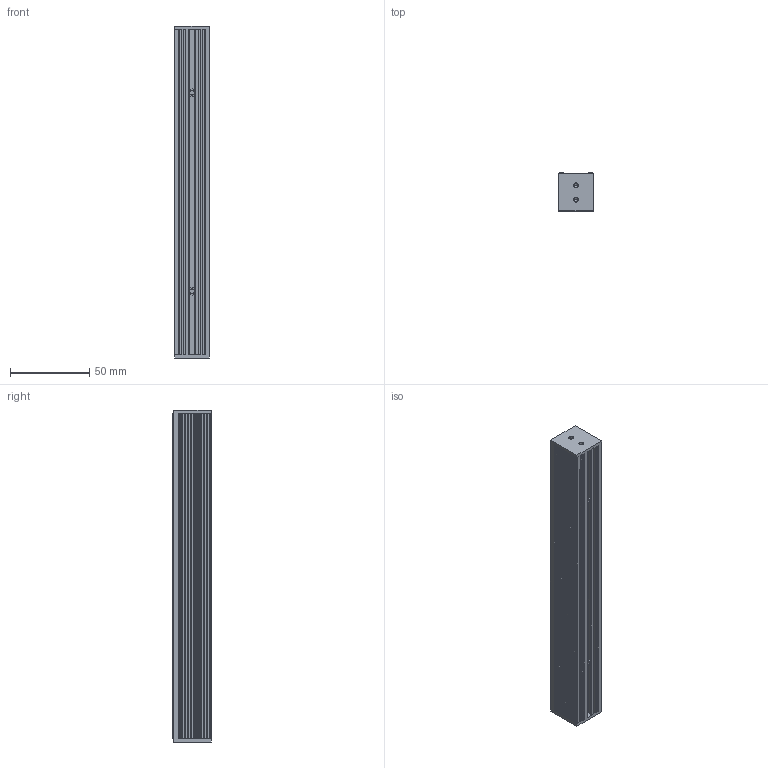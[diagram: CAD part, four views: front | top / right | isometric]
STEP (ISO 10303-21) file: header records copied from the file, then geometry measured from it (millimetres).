
FILE_DESCRIPTION((''),'2;1');
FILE_NAME('DSL','2020-03-23T',('ASUS'),(''),'PRO/ENGINEER BY PARAMETRIC TECHNOLOGY CORPORATION, 2008380','PRO/ENGINEER BY PARAMETRIC TECHNOLOGY CORPORATION, 2008380','');
FILE_SCHEMA(('CONFIG_CONTROL_DESIGN'));
Length unit declared in the file: millimetre
Products named in the file (1): DSL
Bounding box: 22 x 24.01 x 209 mm (x, y, z)
Volume: 96375.7 mm3; surface area: 37735 mm2
Topology: 1 solids, 5 shells, 279 faces, 712 edges, 464 vertices
Faces by surface type: plane 173, cylinder 86, cone 20
Entity records: 8481 total; most frequent: CARTESIAN_POINT 1608, DIRECTION 1408, ORIENTED_EDGE 1392, EDGE_CURVE 704, VECTOR 504, LINE 504, VERTEX_POINT 464, AXIS2_PLACEMENT_3D 452
